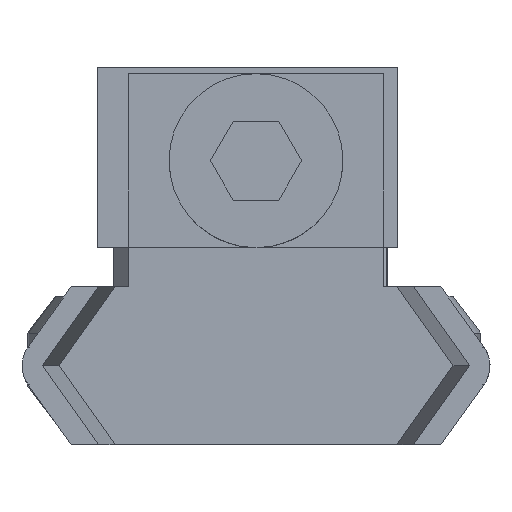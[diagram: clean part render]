
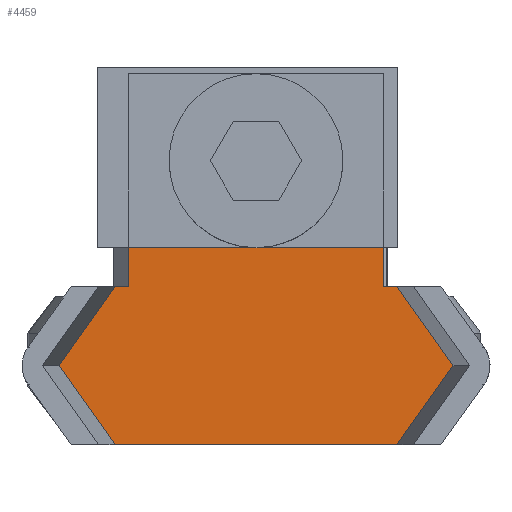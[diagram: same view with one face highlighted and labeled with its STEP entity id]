
A CAD part, left-side view. The second image highlights one B-rep face of the part: STEP entity #4459.
In plain terms, the highlighted planar face has unit normal (-1, 0, 0).
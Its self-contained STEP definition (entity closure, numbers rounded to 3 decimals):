
#145 = LINE ( 'NONE', #6886, #4583 ) ;
#171 = CARTESIAN_POINT ( 'NONE',  ( 3., 1.25, 0. ) ) ;
#184 = CARTESIAN_POINT ( 'NONE',  ( 3., -2.5, 6.228 ) ) ;
#202 = VERTEX_POINT ( 'NONE', #6311 ) ;
#216 = EDGE_CURVE ( 'NONE', #4462, #5928, #4986, .T. ) ;
#316 = LINE ( 'NONE', #171, #6751 ) ;
#437 = CARTESIAN_POINT ( 'NONE',  ( 3., 0., 4.04 ) ) ;
#576 = VECTOR ( 'NONE', #5443, 1000. ) ;
#600 = VERTEX_POINT ( 'NONE', #5913 ) ;
#622 = VERTEX_POINT ( 'NONE', #5292 ) ;
#668 = ORIENTED_EDGE ( 'NONE', *, *, #6767, .T. ) ;
#712 = DIRECTION ( 'NONE',  ( 0., 0., 1. ) ) ;
#718 = DIRECTION ( 'NONE',  ( 0., 0., -1. ) ) ;
#792 = LINE ( 'NONE', #1013, #2862 ) ;
#857 = EDGE_CURVE ( 'NONE', #202, #1626, #6891, .T. ) ;
#942 = CARTESIAN_POINT ( 'NONE',  ( 3., 0., -4.04 ) ) ;
#943 = CARTESIAN_POINT ( 'NONE',  ( 3., 0., -4.04 ) ) ;
#975 = EDGE_CURVE ( 'NONE', #6732, #4462, #1311, .T. ) ;
#1013 = CARTESIAN_POINT ( 'NONE',  ( 3., 0., 4.451 ) ) ;
#1035 = ORIENTED_EDGE ( 'NONE', *, *, #216, .F. ) ;
#1224 = CARTESIAN_POINT ( 'NONE',  ( 3., 3.99, 0. ) ) ;
#1228 = CARTESIAN_POINT ( 'NONE',  ( 3., 1.25, 0.234 ) ) ;
#1239 = ORIENTED_EDGE ( 'NONE', *, *, #2109, .T. ) ;
#1291 = CARTESIAN_POINT ( 'NONE',  ( 3., -2.5, -6.228 ) ) ;
#1311 = LINE ( 'NONE', #3600, #2257 ) ;
#1389 = ORIENTED_EDGE ( 'NONE', *, *, #3672, .T. ) ;
#1551 = CIRCLE ( 'NONE', #5954, 2.75 ) ;
#1587 = ORIENTED_EDGE ( 'NONE', *, *, #857, .F. ) ;
#1626 = VERTEX_POINT ( 'NONE', #437 ) ;
#1735 = VECTOR ( 'NONE', #5179, 1000. ) ;
#1779 = CARTESIAN_POINT ( 'NONE',  ( 3., 0., 0. ) ) ;
#1781 = DIRECTION ( 'NONE',  ( -1., 0., 0. ) ) ;
#1825 = EDGE_CURVE ( 'NONE', #5444, #5815, #792, .T. ) ;
#1873 = CARTESIAN_POINT ( 'NONE',  ( 3., -7.185, 2.897 ) ) ;
#2014 = AXIS2_PLACEMENT_3D ( 'NONE', #1779, #6221, #718 ) ;
#2109 = EDGE_CURVE ( 'NONE', #622, #5815, #2682, .T. ) ;
#2257 = VECTOR ( 'NONE', #3529, 1000. ) ;
#2323 = DIRECTION ( 'NONE',  ( 0., 0., 1. ) ) ;
#2682 = LINE ( 'NONE', #1873, #1735 ) ;
#2814 = LINE ( 'NONE', #7047, #576 ) ;
#2862 = VECTOR ( 'NONE', #3701, 1000. ) ;
#2865 = VERTEX_POINT ( 'NONE', #943 ) ;
#2988 = ORIENTED_EDGE ( 'NONE', *, *, #1825, .F. ) ;
#3011 = CARTESIAN_POINT ( 'NONE',  ( 3., -5., -4.451 ) ) ;
#3121 = VECTOR ( 'NONE', #4456, 1000. ) ;
#3338 = EDGE_CURVE ( 'NONE', #6628, #3879, #1551, .T. ) ;
#3501 = DIRECTION ( 'NONE',  ( 0., 0.815, 0.579 ) ) ;
#3529 = DIRECTION ( 'NONE',  ( 0., 0.815, -0.579 ) ) ;
#3578 = ORIENTED_EDGE ( 'NONE', *, *, #3338, .F. ) ;
#3586 = LINE ( 'NONE', #5901, #4779 ) ;
#3600 = CARTESIAN_POINT ( 'NONE',  ( 3., -5., -4.451 ) ) ;
#3672 = EDGE_CURVE ( 'NONE', #6732, #622, #3586, .T. ) ;
#3687 = DIRECTION ( 'NONE',  ( 0., 0., 1. ) ) ;
#3701 = DIRECTION ( 'NONE',  ( 0., -0.815, 0.579 ) ) ;
#3879 = VERTEX_POINT ( 'NONE', #1228 ) ;
#4129 = DIRECTION ( 'NONE',  ( 0., 0., 1. ) ) ;
#4381 = CARTESIAN_POINT ( 'NONE',  ( 3., 0., 4.451 ) ) ;
#4456 = DIRECTION ( 'NONE',  ( 0., -1., 0. ) ) ;
#4459 = ADVANCED_FACE ( 'NONE', ( #5200 ), #5664, .F. ) ;
#4462 = VERTEX_POINT ( 'NONE', #6196 ) ;
#4578 = ORIENTED_EDGE ( 'NONE', *, *, #975, .F. ) ;
#4583 = VECTOR ( 'NONE', #4129, 1000. ) ;
#4754 = ORIENTED_EDGE ( 'NONE', *, *, #5229, .F. ) ;
#4779 = VECTOR ( 'NONE', #3687, 1000. ) ;
#4912 = LINE ( 'NONE', #942, #5698 ) ;
#4986 = LINE ( 'NONE', #1291, #5253 ) ;
#5171 = VECTOR ( 'NONE', #6452, 1000. ) ;
#5172 = ORIENTED_EDGE ( 'NONE', *, *, #5391, .F. ) ;
#5179 = DIRECTION ( 'NONE',  ( 0., 0.815, 0.579 ) ) ;
#5200 = FACE_OUTER_BOUND ( 'NONE', #6476, .T. ) ;
#5229 = EDGE_CURVE ( 'NONE', #600, #6628, #316, .T. ) ;
#5253 = VECTOR ( 'NONE', #3501, 1000. ) ;
#5292 = CARTESIAN_POINT ( 'NONE',  ( 3., -5., 4.451 ) ) ;
#5342 = DIRECTION ( 'NONE',  ( 0., -1., 0. ) ) ;
#5391 = EDGE_CURVE ( 'NONE', #3879, #202, #145, .T. ) ;
#5401 = EDGE_CURVE ( 'NONE', #5444, #1626, #2814, .T. ) ;
#5443 = DIRECTION ( 'NONE',  ( 0., 0., -1. ) ) ;
#5444 = VERTEX_POINT ( 'NONE', #4381 ) ;
#5664 = PLANE ( 'NONE',  #2014 ) ;
#5683 = CARTESIAN_POINT ( 'NONE',  ( 3., 1.25, -0.234 ) ) ;
#5698 = VECTOR ( 'NONE', #5342, 1000. ) ;
#5815 = VERTEX_POINT ( 'NONE', #184 ) ;
#5901 = CARTESIAN_POINT ( 'NONE',  ( 3., -5., 0.665 ) ) ;
#5913 = CARTESIAN_POINT ( 'NONE',  ( 3., 1.25, -4.04 ) ) ;
#5928 = VERTEX_POINT ( 'NONE', #6300 ) ;
#5954 = AXIS2_PLACEMENT_3D ( 'NONE', #1224, #1781, #2323 ) ;
#6173 = EDGE_CURVE ( 'NONE', #600, #2865, #4912, .T. ) ;
#6196 = CARTESIAN_POINT ( 'NONE',  ( 3., -2.5, -6.228 ) ) ;
#6221 = DIRECTION ( 'NONE',  ( 1., 0., 0. ) ) ;
#6300 = CARTESIAN_POINT ( 'NONE',  ( 3., 0., -4.451 ) ) ;
#6311 = CARTESIAN_POINT ( 'NONE',  ( 3., 1.25, 4.04 ) ) ;
#6332 = ORIENTED_EDGE ( 'NONE', *, *, #6173, .T. ) ;
#6382 = CARTESIAN_POINT ( 'NONE',  ( 3., 0., -0.176 ) ) ;
#6452 = DIRECTION ( 'NONE',  ( 0., 0., -1. ) ) ;
#6476 = EDGE_LOOP ( 'NONE', ( #4754, #6332, #668, #1035, #4578, #1389, #1239, #2988, #6841, #1587, #5172, #3578 ) ) ;
#6567 = LINE ( 'NONE', #6382, #5171 ) ;
#6608 = CARTESIAN_POINT ( 'NONE',  ( 3., 0., 4.04 ) ) ;
#6628 = VERTEX_POINT ( 'NONE', #5683 ) ;
#6732 = VERTEX_POINT ( 'NONE', #3011 ) ;
#6751 = VECTOR ( 'NONE', #712, 1000. ) ;
#6767 = EDGE_CURVE ( 'NONE', #2865, #5928, #6567, .T. ) ;
#6841 = ORIENTED_EDGE ( 'NONE', *, *, #5401, .T. ) ;
#6886 = CARTESIAN_POINT ( 'NONE',  ( 3., 1.25, 0. ) ) ;
#6891 = LINE ( 'NONE', #6608, #3121 ) ;
#7047 = CARTESIAN_POINT ( 'NONE',  ( 3., 0., -0.176 ) ) ;
